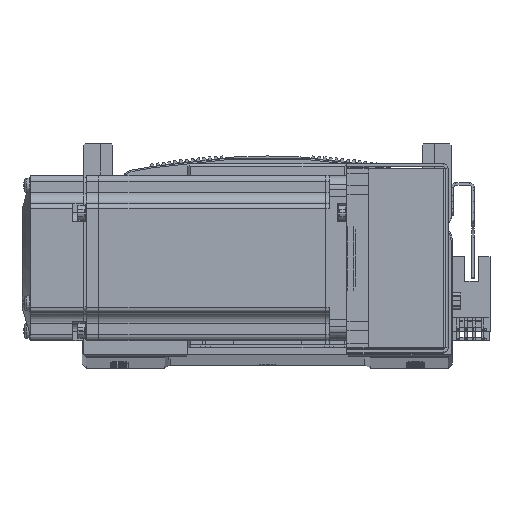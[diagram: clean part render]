
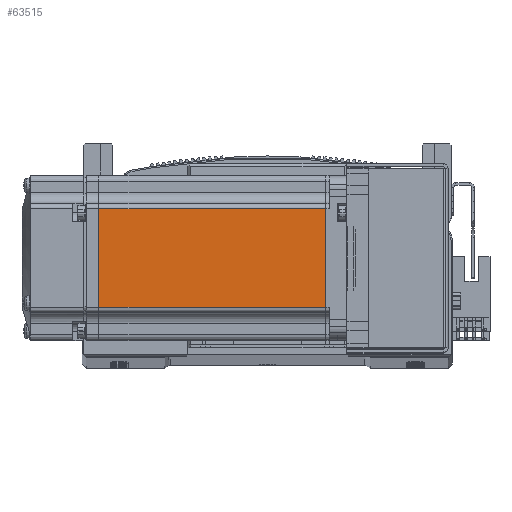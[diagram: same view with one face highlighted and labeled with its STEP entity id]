
A CAD part, top view. The second image highlights one B-rep face of the part: STEP entity #63515.
In plain terms, the highlighted planar face has unit normal (0, 0, 1) as drawn and (0, -1, 0) by its records, which use the part's own axes.
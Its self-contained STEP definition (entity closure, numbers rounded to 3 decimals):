
#7070 = CARTESIAN_POINT ( 'NONE',  ( -7.75, -30., 18. ) ) ;
#7154 = CARTESIAN_POINT ( 'NONE',  ( -90.45, -30., -18. ) ) ;
#7180 = CARTESIAN_POINT ( 'NONE',  ( -7.75, -30., -18. ) ) ;
#7240 = CARTESIAN_POINT ( 'NONE',  ( -90.45, -30., 18. ) ) ;
#8062 = CARTESIAN_POINT ( 'NONE',  ( -6.5, -30., -18. ) ) ;
#8113 = DIRECTION ( 'NONE',  ( -1., 0., 0. ) ) ;
#8156 = CARTESIAN_POINT ( 'NONE',  ( -90.45, -30., 0. ) ) ;
#8213 = DIRECTION ( 'NONE',  ( 0., 0., -1. ) ) ;
#9261 = AXIS2_PLACEMENT_3D ( 'NONE', #80156, #80119, #80145 ) ;
#22350 = LINE ( 'NONE', #8156, #22427 ) ;
#22391 = LINE ( 'NONE', #8062, #22422 ) ;
#22422 = VECTOR ( 'NONE', #8113, 1000. ) ;
#22427 = VECTOR ( 'NONE', #8213, 1000. ) ;
#22576 = VECTOR ( 'NONE', #40200, 1000. ) ;
#22579 = VECTOR ( 'NONE', #40116, 1000. ) ;
#22590 = LINE ( 'NONE', #40221, #22576 ) ;
#22604 = LINE ( 'NONE', #40163, #22579 ) ;
#33227 = EDGE_CURVE ( 'NONE', #60719, #60697, #22391, .T. ) ;
#33266 = EDGE_CURVE ( 'NONE', #60661, #60697, #22350, .T. ) ;
#33409 = EDGE_CURVE ( 'NONE', #60655, #60661, #22604, .T. ) ;
#33429 = EDGE_CURVE ( 'NONE', #60655, #60719, #22590, .T. ) ;
#36709 = EDGE_LOOP ( 'NONE', ( #59552, #59502, #59572, #59562 ) ) ;
#40116 = DIRECTION ( 'NONE',  ( -1., 0., 0. ) ) ;
#40163 = CARTESIAN_POINT ( 'NONE',  ( -6.5, -30., 18. ) ) ;
#40200 = DIRECTION ( 'NONE',  ( 0., 0., -1. ) ) ;
#40221 = CARTESIAN_POINT ( 'NONE',  ( -7.75, -30., 0. ) ) ;
#59502 = ORIENTED_EDGE ( 'NONE', *, *, #33409, .T. ) ;
#59552 = ORIENTED_EDGE ( 'NONE', *, *, #33429, .F. ) ;
#59562 = ORIENTED_EDGE ( 'NONE', *, *, #33227, .F. ) ;
#59572 = ORIENTED_EDGE ( 'NONE', *, *, #33266, .T. ) ;
#60655 = VERTEX_POINT ( 'NONE', #7070 ) ;
#60661 = VERTEX_POINT ( 'NONE', #7240 ) ;
#60697 = VERTEX_POINT ( 'NONE', #7154 ) ;
#60719 = VERTEX_POINT ( 'NONE', #7180 ) ;
#63515 = ADVANCED_FACE ( 'NONE', ( #78445 ), #80093, .T. ) ;
#78445 = FACE_OUTER_BOUND ( 'NONE', #36709, .T. ) ;
#80093 = PLANE ( 'NONE',  #9261 ) ;
#80119 = DIRECTION ( 'NONE',  ( 0., -1., 0. ) ) ;
#80145 = DIRECTION ( 'NONE',  ( 0., 0., -1. ) ) ;
#80156 = CARTESIAN_POINT ( 'NONE',  ( -6.5, -30., -25. ) ) ;
